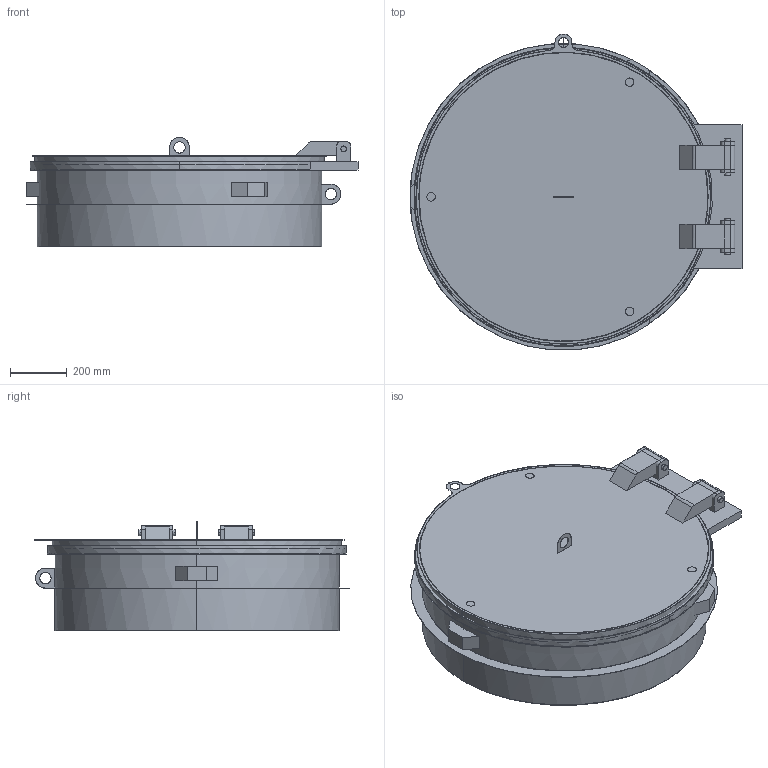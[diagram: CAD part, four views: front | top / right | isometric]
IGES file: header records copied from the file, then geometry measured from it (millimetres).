
Start section:  PTC IGES file: 52471725.igs
Global section: file name: 52471725.igs; native system: Creo Parametric by PTC Inc.; preprocessor: 2022162; author: stat; organization: Unknown; date: 20251030.084102; units: millimetre
Bounding box: 1172.5 x 1115.28 x 384.95 mm (x, y, z)
Surface area: 5149854.5 mm2 (no closed solid volume)
Topology: 0 solids, 0 shells, 180 faces, 832 edges, 832 vertices
Faces by surface type: bspline 110, revolution 70
